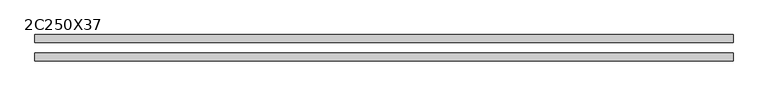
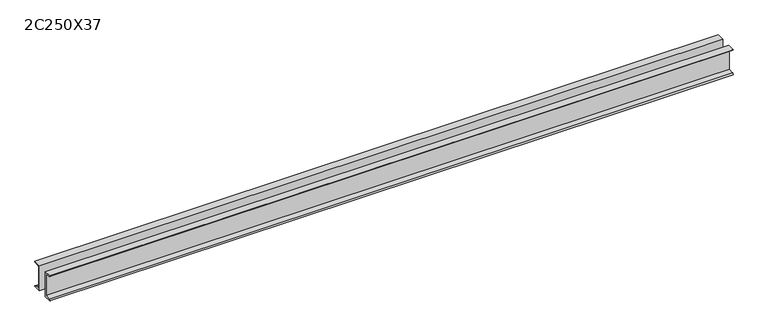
"""IFC4 building model written with IfcOpenShell, lengths in millimetres: beam geometry, Profilato a doppia C : 2C250X37."""

from ifc_helpers import new_model, si_unit, point, frame, frame_2d, origin, place, context, project, spatial, polyline, circle_curve, trimmed, segment, composite_curve, outline, extrude, source, transform, mapped, element, save


def beam_2c250x37_2629953b(model_context):
    return source(origin(), model_context, "Body", "SweptSolid", [
        extrude(outline(composite_curve([segment(polyline([(50.0, 127.0), (123.3, 127.0)]), True, "CONTINUOUS"), segment(trimmed(circle_curve(frame_2d((112.2, 127.0)), 11.1), [point((123.3, 127.0))], [point((112.2, 115.9))], False, "CARTESIAN"), True, "CONTINUOUS"), segment(polyline([(112.2, 115.9), (63.4, 108.1708393), (63.4, -108.1708393), (112.2, -115.9)]), True, "CONTINUOUS"), segment(trimmed(circle_curve(frame_2d((112.2, -127.0)), 11.1), [point((112.2, -115.9))], [point((123.3, -127.0))], False, "CARTESIAN"), True, "CONTINUOUS"), segment(polyline([(123.3, -127.0), (50.0, -127.0), (50.0, 127.0)]), True, "CONTINUOUS")], self_intersect=False)), frame((-3287.5, 0.0, 0.0), z_axis=(1.0, 0.0, 0.0), x_axis=(0.0, 1.0, 0.0)), (0.0, 0.0, 1.0), 6575.0),
        extrude(outline(composite_curve([segment(polyline([(-50.0, 127.0), (-50.0, -127.0), (-123.3, -127.0)]), True, "CONTINUOUS"), segment(trimmed(circle_curve(frame_2d((-112.2, -127.0)), 11.1), [point((-123.3, -127.0))], [point((-112.2, -115.9))], False, "CARTESIAN"), True, "CONTINUOUS"), segment(polyline([(-112.2, -115.9), (-63.4, -108.1708393), (-63.4, 108.1708393), (-112.2, 115.9)]), True, "CONTINUOUS"), segment(trimmed(circle_curve(frame_2d((-112.2, 127.0)), 11.1), [point((-112.2, 115.9))], [point((-123.3, 127.0))], False, "CARTESIAN"), True, "CONTINUOUS"), segment(polyline([(-123.3, 127.0), (-50.0, 127.0)]), True, "CONTINUOUS")], self_intersect=False)), frame((-3287.5, 0.0, 0.0), z_axis=(1.0, 0.0, 0.0), x_axis=(0.0, 1.0, 0.0)), (0.0, 0.0, 1.0), 6575.0),
    ])


if __name__ == "__main__":
    model = new_model("IFC4")
    model_context = context("Model", 3, world=origin())
    ifc_project = project(units=[si_unit("LENGTHUNIT", "METRE", prefix="MILLI")], contexts=[model_context])
    site = spatial("IfcSite", under=ifc_project)
    building = spatial("IfcBuilding", under=site)
    placement = place(None, origin())
    beam_2c250x37_shape = beam_2c250x37_2629953b(model_context)
    element("IfcBeam", 1, ObjectType="Profilato a doppia C : 2C250X37", at=placement, inside=building, context=model_context, shape_type="MappedRepresentation", body=[
        mapped(beam_2c250x37_shape, transform((0.0, 0.0, 0.0), x_axis=(1.0, 0.0, 0.0), y_axis=(0.0, 1.0, 0.0), z_axis=(0.0, 0.0, 1.0))),
    ])
    save(model, "model.ifc")
